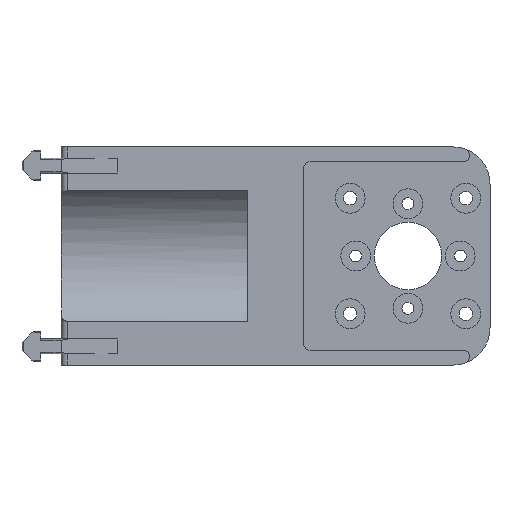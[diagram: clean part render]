
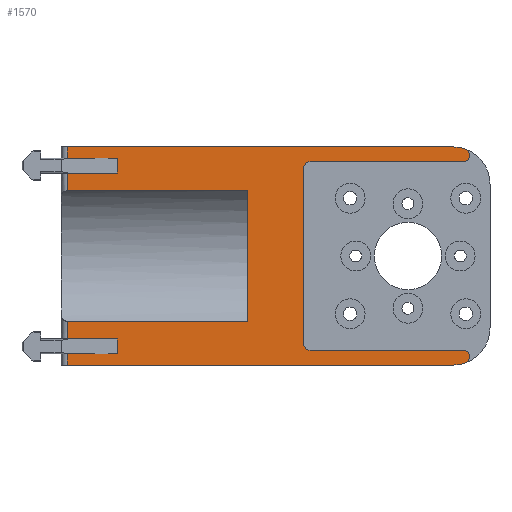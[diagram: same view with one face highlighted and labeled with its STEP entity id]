
A CAD part, left-side view. The second image highlights one B-rep face of the part: STEP entity #1570.
In plain terms, the highlighted planar face has unit normal (-1, 0, 0).
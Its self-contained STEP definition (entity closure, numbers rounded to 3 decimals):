
#1=DIRECTION('',(0.,0.,-1.));
#2=VECTOR('',#1,34.986);
#3=CARTESIAN_POINT('',(0.,-50.,17.493));
#4=LINE('',#3,#2);
#5=DIRECTION('',(0.,1.,0.));
#6=VECTOR('',#5,48.3);
#7=CARTESIAN_POINT('',(0.,-50.,17.493));
#8=LINE('',#7,#6);
#9=DIRECTION('',(0.,0.,-1.));
#10=VECTOR('',#9,4.757);
#11=CARTESIAN_POINT('',(0.,-1.7,22.25));
#12=LINE('',#11,#10);
#13=DIRECTION('',(0.,-1.,0.));
#14=VECTOR('',#13,13.3);
#15=CARTESIAN_POINT('',(0.,-1.7,22.25));
#16=LINE('',#15,#14);
#17=DIRECTION('',(0.,0.,1.));
#18=VECTOR('',#17,4.);
#19=CARTESIAN_POINT('',(0.,-15.,22.25));
#20=LINE('',#19,#18);
#21=DIRECTION('',(0.,-1.,0.));
#22=VECTOR('',#21,13.3);
#23=CARTESIAN_POINT('',(0.,-1.7,26.25));
#24=LINE('',#23,#22);
#25=DIRECTION('',(0.,0.,-1.));
#26=VECTOR('',#25,3.);
#27=CARTESIAN_POINT('',(0.,-1.7,29.25));
#28=LINE('',#27,#26);
#29=DIRECTION('',(0.,-1.,0.));
#30=VECTOR('',#29,103.3);
#31=CARTESIAN_POINT('',(0.,-1.7,29.25));
#32=LINE('',#31,#30);
#33=CARTESIAN_POINT('',(0.,-105.,19.25));
#34=DIRECTION('',(-1.,0.,0.));
#35=DIRECTION('',(0.,-0.343,0.939));
#36=AXIS2_PLACEMENT_3D('',#33,#34,#35);
#38=CARTESIAN_POINT('',(0.,-107.828,27.));
#39=DIRECTION('',(-1.,0.,0.));
#40=DIRECTION('',(0.,0.,-1.));
#41=AXIS2_PLACEMENT_3D('',#38,#39,#40);
#43=DIRECTION('',(0.,1.,0.));
#44=VECTOR('',#43,41.078);
#45=CARTESIAN_POINT('',(0.,-107.828,25.25));
#46=LINE('',#45,#44);
#47=DIRECTION('',(0.,0.,-1.));
#48=VECTOR('',#47,47.);
#49=CARTESIAN_POINT('',(0.,-65.,23.5));
#50=LINE('',#49,#48);
#51=DIRECTION('',(0.,1.,0.));
#52=VECTOR('',#51,41.078);
#53=CARTESIAN_POINT('',(0.,-107.828,-25.25));
#54=LINE('',#53,#52);
#55=CARTESIAN_POINT('',(0.,-107.828,-27.));
#56=DIRECTION('',(-1.,0.,0.));
#57=DIRECTION('',(0.,-0.343,-0.939));
#58=AXIS2_PLACEMENT_3D('',#55,#56,#57);
#60=CARTESIAN_POINT('',(0.,-105.,-19.25));
#61=DIRECTION('',(-1.,0.,0.));
#62=DIRECTION('',(0.,0.,-1.));
#63=AXIS2_PLACEMENT_3D('',#60,#61,#62);
#65=DIRECTION('',(0.,1.,0.));
#66=VECTOR('',#65,103.3);
#67=CARTESIAN_POINT('',(0.,-105.,-29.25));
#68=LINE('',#67,#66);
#69=DIRECTION('',(0.,0.,-1.));
#70=VECTOR('',#69,3.);
#71=CARTESIAN_POINT('',(0.,-1.7,-26.25));
#72=LINE('',#71,#70);
#73=DIRECTION('',(0.,-1.,0.));
#74=VECTOR('',#73,13.3);
#75=CARTESIAN_POINT('',(0.,-1.7,-26.25));
#76=LINE('',#75,#74);
#77=DIRECTION('',(0.,0.,-1.));
#78=VECTOR('',#77,4.);
#79=CARTESIAN_POINT('',(0.,-15.,-22.25));
#80=LINE('',#79,#78);
#81=DIRECTION('',(0.,-1.,0.));
#82=VECTOR('',#81,13.3);
#83=CARTESIAN_POINT('',(0.,-1.7,-22.25));
#84=LINE('',#83,#82);
#85=DIRECTION('',(0.,0.,-1.));
#86=VECTOR('',#85,4.757);
#87=CARTESIAN_POINT('',(0.,-1.7,-17.493));
#88=LINE('',#87,#86);
#89=DIRECTION('',(0.,1.,0.));
#90=VECTOR('',#89,48.3);
#91=CARTESIAN_POINT('',(0.,-50.,-17.493));
#92=LINE('',#91,#90);
#817=CARTESIAN_POINT('',(0.,-66.75,-23.5));
#818=DIRECTION('',(1.,0.,0.));
#819=DIRECTION('',(0.,0.,-1.));
#820=AXIS2_PLACEMENT_3D('',#817,#818,#819);
#830=CARTESIAN_POINT('',(0.,-66.75,23.5));
#831=DIRECTION('',(1.,0.,0.));
#832=DIRECTION('',(0.,1.,0.));
#833=AXIS2_PLACEMENT_3D('',#830,#831,#832);
#1190=CARTESIAN_POINT('',(0.,-105.,29.25));
#1192=VERTEX_POINT('',#1190);
#1203=CARTESIAN_POINT('',(0.,-105.,-29.25));
#1204=VERTEX_POINT('',#1203);
#1261=CARTESIAN_POINT('',(0.,-66.75,-25.25));
#1262=VERTEX_POINT('',#1261);
#1263=CARTESIAN_POINT('',(0.,-65.,-23.5));
#1264=VERTEX_POINT('',#1263);
#1269=CARTESIAN_POINT('',(0.,-65.,23.5));
#1270=VERTEX_POINT('',#1269);
#1271=CARTESIAN_POINT('',(0.,-66.75,25.25));
#1272=VERTEX_POINT('',#1271);
#1273=CARTESIAN_POINT('',(0.,-108.428,-28.644));
#1275=VERTEX_POINT('',#1273);
#1277=CARTESIAN_POINT('',(0.,-107.828,-25.25));
#1278=VERTEX_POINT('',#1277);
#1281=CARTESIAN_POINT('',(0.,-107.828,25.25));
#1282=CARTESIAN_POINT('',(0.,-108.428,28.644));
#1283=VERTEX_POINT('',#1281);
#1284=VERTEX_POINT('',#1282);
#1313=CARTESIAN_POINT('',(0.,-15.,22.25));
#1314=CARTESIAN_POINT('',(0.,-15.,26.25));
#1315=VERTEX_POINT('',#1313);
#1316=VERTEX_POINT('',#1314);
#1317=CARTESIAN_POINT('',(0.,-15.,-22.25));
#1318=CARTESIAN_POINT('',(0.,-15.,-26.25));
#1319=VERTEX_POINT('',#1317);
#1320=VERTEX_POINT('',#1318);
#1325=CARTESIAN_POINT('',(0.,-1.7,29.25));
#1326=VERTEX_POINT('',#1325);
#1327=CARTESIAN_POINT('',(0.,-1.7,26.25));
#1328=VERTEX_POINT('',#1327);
#1329=CARTESIAN_POINT('',(0.,-1.7,-29.25));
#1331=VERTEX_POINT('',#1329);
#1335=CARTESIAN_POINT('',(0.,-1.7,-26.25));
#1336=VERTEX_POINT('',#1335);
#1337=CARTESIAN_POINT('',(0.,-1.7,22.25));
#1338=VERTEX_POINT('',#1337);
#1341=CARTESIAN_POINT('',(0.,-1.7,-22.25));
#1342=VERTEX_POINT('',#1341);
#1441=CARTESIAN_POINT('',(0.,-50.,17.493));
#1442=CARTESIAN_POINT('',(0.,-50.,-17.493));
#1443=VERTEX_POINT('',#1441);
#1444=VERTEX_POINT('',#1442);
#1445=CARTESIAN_POINT('',(0.,-1.7,-17.493));
#1446=VERTEX_POINT('',#1445);
#1447=CARTESIAN_POINT('',(0.,-1.7,17.493));
#1448=VERTEX_POINT('',#1447);
#1515=CARTESIAN_POINT('',(0.,0.,0.));
#1516=DIRECTION('',(1.,0.,0.));
#1517=DIRECTION('',(0.,0.,-1.));
#1518=AXIS2_PLACEMENT_3D('',#1515,#1516,#1517);
#1519=PLANE('',#1518);
#1521=ORIENTED_EDGE('',*,*,#1520,.F.);
#1523=ORIENTED_EDGE('',*,*,#1522,.T.);
#1525=ORIENTED_EDGE('',*,*,#1524,.F.);
#1527=ORIENTED_EDGE('',*,*,#1526,.T.);
#1529=ORIENTED_EDGE('',*,*,#1528,.T.);
#1531=ORIENTED_EDGE('',*,*,#1530,.F.);
#1533=ORIENTED_EDGE('',*,*,#1532,.F.);
#1535=ORIENTED_EDGE('',*,*,#1534,.T.);
#1537=ORIENTED_EDGE('',*,*,#1536,.F.);
#1539=ORIENTED_EDGE('',*,*,#1538,.F.);
#1541=ORIENTED_EDGE('',*,*,#1540,.T.);
#1543=ORIENTED_EDGE('',*,*,#1542,.F.);
#1545=ORIENTED_EDGE('',*,*,#1544,.T.);
#1547=ORIENTED_EDGE('',*,*,#1546,.F.);
#1549=ORIENTED_EDGE('',*,*,#1548,.F.);
#1551=ORIENTED_EDGE('',*,*,#1550,.F.);
#1553=ORIENTED_EDGE('',*,*,#1552,.F.);
#1555=ORIENTED_EDGE('',*,*,#1554,.T.);
#1557=ORIENTED_EDGE('',*,*,#1556,.F.);
#1559=ORIENTED_EDGE('',*,*,#1558,.T.);
#1561=ORIENTED_EDGE('',*,*,#1560,.F.);
#1563=ORIENTED_EDGE('',*,*,#1562,.F.);
#1565=ORIENTED_EDGE('',*,*,#1564,.F.);
#1567=ORIENTED_EDGE('',*,*,#1566,.F.);
#1568=EDGE_LOOP('',(#1521,#1523,#1525,#1527,#1529,#1531,#1533,#1535,#1537,#1539,
#1541,#1543,#1545,#1547,#1549,#1551,#1553,#1555,#1557,#1559,#1561,#1563,#1565,
#1567));
#1569=FACE_OUTER_BOUND('',#1568,.F.);
#1570=ADVANCED_FACE('',(#1569),#1519,.F.);
#37=CIRCLE('',#36,10.);
#42=CIRCLE('',#41,1.75);
#59=CIRCLE('',#58,1.75);
#64=CIRCLE('',#63,10.);
#821=CIRCLE('',#820,1.75);
#834=CIRCLE('',#833,1.75);
#1520=EDGE_CURVE('',#1443,#1444,#4,.T.);
#1522=EDGE_CURVE('',#1443,#1448,#8,.T.);
#1524=EDGE_CURVE('',#1338,#1448,#12,.T.);
#1526=EDGE_CURVE('',#1338,#1315,#16,.T.);
#1528=EDGE_CURVE('',#1315,#1316,#20,.T.);
#1530=EDGE_CURVE('',#1328,#1316,#24,.T.);
#1532=EDGE_CURVE('',#1326,#1328,#28,.T.);
#1534=EDGE_CURVE('',#1326,#1192,#32,.T.);
#1536=EDGE_CURVE('',#1284,#1192,#37,.T.);
#1538=EDGE_CURVE('',#1283,#1284,#42,.T.);
#1540=EDGE_CURVE('',#1283,#1272,#46,.T.);
#1542=EDGE_CURVE('',#1270,#1272,#834,.T.);
#1544=EDGE_CURVE('',#1270,#1264,#50,.T.);
#1546=EDGE_CURVE('',#1262,#1264,#821,.T.);
#1548=EDGE_CURVE('',#1278,#1262,#54,.T.);
#1550=EDGE_CURVE('',#1275,#1278,#59,.T.);
#1552=EDGE_CURVE('',#1204,#1275,#64,.T.);
#1554=EDGE_CURVE('',#1204,#1331,#68,.T.);
#1556=EDGE_CURVE('',#1336,#1331,#72,.T.);
#1558=EDGE_CURVE('',#1336,#1320,#76,.T.);
#1560=EDGE_CURVE('',#1319,#1320,#80,.T.);
#1562=EDGE_CURVE('',#1342,#1319,#84,.T.);
#1564=EDGE_CURVE('',#1446,#1342,#88,.T.);
#1566=EDGE_CURVE('',#1444,#1446,#92,.T.);
